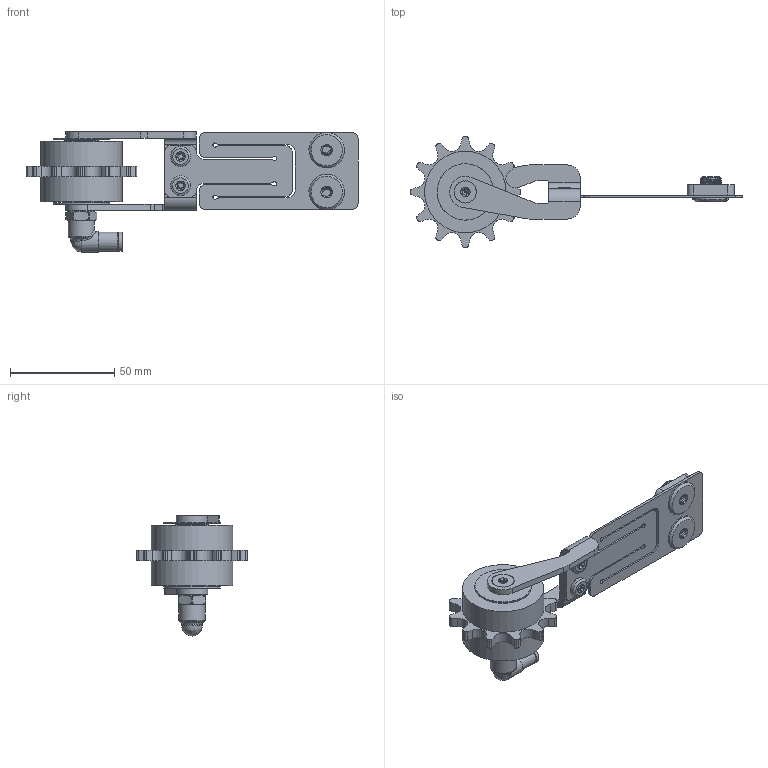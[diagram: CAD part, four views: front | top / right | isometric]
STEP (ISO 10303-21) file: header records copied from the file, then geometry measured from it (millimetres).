
FILE_DESCRIPTION (( 'STEP AP214' ), '1' );
FILE_NAME ('012_06_08B1_C.STEP', '2026-01-20T13:30:45', ( '' ), ( '' ), 'SwSTEP 2.0', 'SolidWorks 2022', '' );
FILE_SCHEMA (( 'AUTOMOTIVE_DESIGN' ));
Length unit declared in the file: millimetre
Products named in the file (10): 012_06E01_10_Schraube_M5; 9911_0503_0440_Stckverschr_wkl; 012_06_08B1_C; Montagespange_30_b; 012_10_05_Gewindescheibe_M10; 012E20_070_Federblech; 012_06E01_10_Schraube_M10; 012_06_12A_DMU_1; 012_06_08B1_Kettenschmierritzel 08 B-1; Senkkopfschraube_M5_ISR
Assembly tree (11 placements, depth 2):
  012_06_08B1_C
    Montagespange_30_b
    012E20_070_Federblech
    012_10_05_Gewindescheibe_M10
    012_06E01_10_Schraube_M10  x2
    9911_0503_0440_Stckverschr_wkl
    012_06_12A_DMU_1
    012_06E01_10_Schraube_M5  x2
    Senkkopfschraube_M5_ISR
    012_06_08B1_Kettenschmierritzel 08 B-1
Bounding box: 159 x 53 x 57.6 mm (x, y, z)
Volume: 12217.7 mm3; surface area: 30496.6 mm2
Topology: 6 solids, 41 shells, 528 faces, 1690 edges, 1211 vertices
Faces by surface type: cylinder 289, plane 134, cone 72, bspline 33
Full cylindrical faces by diameter (mm): 4 x5, 4.2 x3, 4.3 x1, 4.917 x1, 5 x10, 5.1 x3, 8.1 x1, 8.4 x2, 8.511 x1, 9 x1, 9.2 x1, 9.5 x2, 10 x4, 10.1 x2, 12 x4, 12.1 x2, 12.5 x1, 12.9 x1, 14 x1, 16 x3, 17 x2, 27 x2, 39 x2
Entity records: 45677 total; most frequent: CARTESIAN_POINT 29530, ORIENTED_EDGE 2326, DIRECTION 2268, EDGE_CURVE 1353, VERTEX_POINT 1041, AXIS2_PLACEMENT_3D 878, EDGE_LOOP 614, LINE 512
